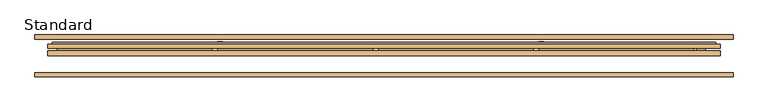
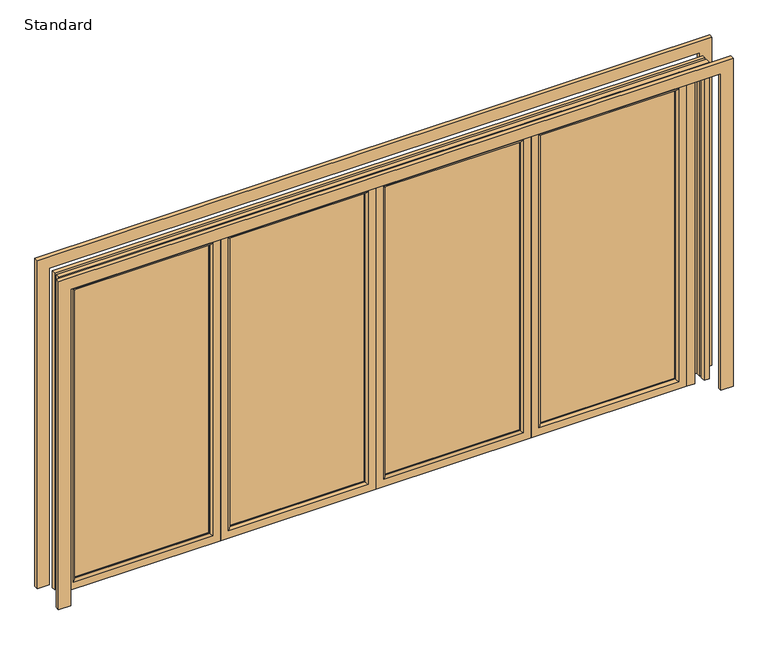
"""IFC4 building model written with IfcOpenShell, lengths in millimetres: door geometry, SMARTS_Visofold1000 : Standard."""

from ifc_helpers import new_model, si_unit, point, frame, frame_2d, origin, origin_with_axes, place, context, project, spatial, polyline, circle_curve, ellipse_curve, trimmed, segment, composite_curve, outline, extrude, faceted_brep, source, transform, mapped, element, save
from ifc_brep_helpers import plane_surface, cylinder_surface, advanced_brep


def standard_444d65a5(model_context):
    return source(origin(), model_context, "Body", "SolidModel", [
        extrude(outline(composite_curve([segment(trimmed(circle_curve(frame_2d((1228.0996413, 935.0)), 16.0), [point((1228.0996413, 951.0))], [point((1228.0996413, 919.0))], False, "CARTESIAN"), True, "CONTINUOUS"), segment(polyline([(1228.0996413, 919.0), (1040.0996413, 919.0)]), True, "CONTINUOUS"), segment(trimmed(circle_curve(frame_2d((1040.0996413, 935.0)), 16.0), [point((1040.0996413, 919.0))], [point((1040.0996413, 951.0))], False, "CARTESIAN"), True, "CONTINUOUS"), segment(polyline([(1040.0996413, 951.0), (1228.0996413, 951.0)]), True, "CONTINUOUS")], self_intersect=False)), frame((0.0, 75.0, 0.0), z_axis=(0.0, 1.0, 0.0), x_axis=(0.0, 0.0, 1.0)), (0.0, 0.0, 1.0), 10.0),
        extrude(outline(polyline([(45.0, 950.0), (45.0, 1815.0), (1955.0, 1815.0), (1955.0, 950.0), (45.0, 950.0)]), holes=[polyline([(1939.5, 965.5), (1939.5, 1799.5), (60.5, 1799.5), (60.5, 965.5), (1939.5, 965.5)])]), frame((0.0, 17.4, 0.0), z_axis=(0.0, 1.0, 0.0), x_axis=(0.0, 0.0, 1.0)), (0.0, 0.0, 1.0), 35.0),
        faceted_brep([(905.0, 74.4, 0.0), (905.0, 52.4, 0.0), (905.0, 52.4, 2000.0), (905.0, 74.4, 2000.0), (965.5, 52.4, 60.5), (965.5, 74.4, 60.5), (965.5, 74.4, 1939.5), (965.5, 52.4, 1939.5), (1860.0, 52.4, 2000.0), (1860.0, 74.4, 2000.0), (1799.5, 74.4, 1939.5), (1799.5, 52.4, 1939.5), (1860.0, 52.4, 0.0), (1860.0, 74.4, 0.0), (1799.5, 74.4, 60.5), (1799.5, 52.4, 60.5), (922.8691481, 34.8, 17.8691481), (1842.1308519, 34.8, 17.8691481), (1842.1308519, 34.8, 1982.1308519), (922.8691481, 34.8, 1982.1308519), (950.0, 34.8, 1955.0), (1815.0, 34.8, 1955.0), (1815.0, 34.8, 45.0), (950.0, 34.8, 45.0), (922.8691481, 52.4, 17.8691481), (922.8691481, 52.4, 1982.1308519), (950.0, 52.4, 45.0), (950.0, 52.4, 1955.0), (1842.1308519, 52.4, 1982.1308519), (1815.0, 52.4, 1955.0), (1842.1308519, 52.4, 17.8691481), (1815.0, 52.4, 45.0)], [[[0, 1, 2, 3]], [[4, 5, 6, 7]], [[3, 2, 8, 9]], [[7, 6, 10, 11]], [[9, 8, 12, 13]], [[11, 10, 14, 15]], [[13, 12, 1, 0]], [[3, 9, 13, 0], [5, 14, 10, 6]], [[15, 14, 5, 4]], [[16, 17, 18, 19], [20, 21, 22, 23]], [[24, 16, 19, 25]], [[23, 26, 27, 20]], [[25, 19, 18, 28]], [[20, 27, 29, 21]], [[28, 18, 17, 30]], [[21, 29, 31, 22]], [[30, 17, 16, 24]], [[1, 12, 8, 2], [25, 28, 30, 24]], [[26, 31, 29, 27], [7, 11, 15, 4]], [[22, 31, 26, 23]]]),
        advanced_brep(
        [(965.5, 13.3, 60.5), (965.5, 17.4, 60.5), (965.5, 17.4, 1939.5), (965.5, 13.3, 1939.5), (905.0, 17.4, 0.0), (905.0, 0.0, 0.0), (905.0, 0.0, 2000.0), (905.0, 17.4, 2000.0), (1799.5, 17.4, 1939.5), (1799.5, 13.3, 1939.5), (1860.0, 0.0, 2000.0), (1860.0, 17.4, 2000.0), (1799.5, 17.4, 60.5), (1799.5, 13.3, 60.5), (1860.0, 0.0, 0.0), (1860.0, 17.4, 0.0), (952.2, 0.0, 1952.8), (1812.8, 0.0, 1952.8), (1812.8, 0.0, 47.2), (952.2, 0.0, 47.2), (922.8691481, 34.8, 17.8691481), (922.8691481, 17.4, 17.8691481), (922.8691481, 17.4, 1982.1308519), (922.8691481, 34.8, 1982.1308519), (1842.1308519, 17.4, 1982.1308519), (1842.1308519, 34.8, 1982.1308519), (1842.1308519, 17.4, 17.8691481), (1842.1308519, 34.8, 17.8691481), (950.0, 17.4, 45.0), (950.0, 34.8, 45.0), (950.0, 34.8, 1955.0), (950.0, 17.4, 1955.0), (1815.0, 34.8, 1955.0), (1815.0, 17.4, 1955.0), (1815.0, 34.8, 45.0), (1815.0, 17.4, 45.0)],
        [
            (0, 1),
            (1, 2),
            (2, 3),
            (3, 0),
            (4, 5),
            (5, 6),
            (6, 7),
            (7, 4),
            (2, 8),
            (8, 9),
            (9, 3),
            (6, 10),
            (10, 11),
            (11, 7),
            (8, 12),
            (12, 13),
            (13, 9),
            (10, 14),
            (14, 15),
            (15, 11),
            (12, 1),
            (0, 13),
            (5, 14),
            (16, 17),
            (17, 18),
            (18, 19),
            (19, 16),
            (4, 15),
            (19, 0, ellipse_curve(frame((952.2, 13.3, 47.2), z_axis=(-0.7071067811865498, 0.0, 0.7071067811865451), x_axis=(-0.707106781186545, 0.0, -0.70710678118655)), 18.8090404, 13.3)),
            (3, 16, ellipse_curve(frame((952.2, 13.3, 1952.8), z_axis=(-0.7071067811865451, 0.0, -0.7071067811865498), x_axis=(0.7071067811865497, 0.0, -0.7071067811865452)), 18.8090404, 13.3)),
            (9, 17, ellipse_curve(frame((1812.8, 13.3, 1952.8), z_axis=(-0.7071067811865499, 0.0, 0.7071067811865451), x_axis=(-0.7071067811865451, 0.0, -0.7071067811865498)), 18.8090404, 13.3)),
            (13, 18, ellipse_curve(frame((1812.8, 13.3, 47.2), z_axis=(0.7071067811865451, 0.0, 0.7071067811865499), x_axis=(-0.7071067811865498, 0.0, 0.7071067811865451)), 18.8090404, 13.3)),
            (20, 21),
            (21, 22),
            (22, 23),
            (23, 20),
            (22, 24),
            (24, 25),
            (25, 23),
            (24, 26),
            (26, 27),
            (27, 25),
            (21, 26),
            (20, 27),
            (28, 29),
            (29, 30),
            (30, 31),
            (31, 28),
            (30, 32),
            (32, 33),
            (33, 31),
            (32, 34),
            (34, 35),
            (35, 33),
            (34, 29),
            (28, 35),
        ],
        [
            plane_surface(frame((965.5, 17.4, 60.5), z_axis=(1.0, 0.0, 0.0), x_axis=(0.0, 0.0, 1.0))),
            plane_surface(frame((905.0, 0.0, 0.0), z_axis=(-1.0, 0.0, 0.0), x_axis=(0.0, 0.0, 1.0))),
            plane_surface(frame((965.5, 17.4, 1939.5), z_axis=(0.0, 0.0, -1.0), x_axis=(1.0, 0.0, 0.0))),
            plane_surface(frame((905.0, 0.0, 2000.0), z_axis=(0.0, 0.0, 1.0), x_axis=(1.0, 0.0, 0.0))),
            plane_surface(frame((1799.5, 17.4, 1939.5), z_axis=(-1.0, 0.0, 0.0), x_axis=(0.0, 0.0, -1.0))),
            plane_surface(frame((1860.0, 0.0, 2000.0), z_axis=(1.0, 0.0, 0.0), x_axis=(0.0, 0.0, -1.0))),
            plane_surface(frame((1799.5, 17.4, 60.5), z_axis=(0.0, 0.0, 1.0), x_axis=(-1.0, 0.0, 0.0))),
            plane_surface(frame((1812.8, 0.0, 47.2), z_axis=(0.0, -1.0, 0.0), x_axis=(-1.0, 0.0, 0.0))),
            plane_surface(frame((1860.0, 0.0, 0.0), z_axis=(0.0, 0.0, -1.0), x_axis=(-1.0, 0.0, 0.0))),
            cylinder_surface(frame((952.2, 13.3, 0.0), z_axis=(0.0, 0.0, -1.0), x_axis=(0.0, 1.0, 0.0)), 13.3),
            cylinder_surface(frame((905.0, 13.3, 1952.8), z_axis=(-1.0, 0.0, 0.0), x_axis=(0.0, 1.0, 0.0)), 13.3),
            cylinder_surface(frame((1812.8, 13.3, 2000.0), z_axis=(0.0, 0.0, 1.0), x_axis=(0.0, 1.0, 0.0)), 13.3),
            cylinder_surface(frame((1860.0, 13.3, 47.2), z_axis=(1.0, 0.0, 0.0), x_axis=(0.0, 1.0, 0.0)), 13.3),
            plane_surface(frame((922.8691481, 17.4, 17.8691481), z_axis=(-1.0, 0.0, 0.0), x_axis=(0.0, 0.0, 1.0))),
            plane_surface(frame((922.8691481, 17.4, 1982.1308519), z_axis=(0.0, 0.0, 1.0), x_axis=(1.0, 0.0, 0.0))),
            plane_surface(frame((1842.1308519, 17.4, 1982.1308519), z_axis=(1.0, 0.0, 0.0), x_axis=(0.0, 0.0, -1.0))),
            plane_surface(frame((1860.0, 17.4, 0.0), z_axis=(0.0, 1.0, 0.0), x_axis=(-1.0, 0.0, 0.0))),
            plane_surface(frame((1842.1308519, 17.4, 17.8691481), z_axis=(0.0, 0.0, -1.0), x_axis=(-1.0, 0.0, 0.0))),
            plane_surface(frame((950.0, 34.8, 45.0), z_axis=(1.0, 0.0, 0.0), x_axis=(0.0, 0.0, 1.0))),
            plane_surface(frame((950.0, 34.8, 1955.0), z_axis=(0.0, 0.0, -1.0), x_axis=(1.0, 0.0, 0.0))),
            plane_surface(frame((1815.0, 34.8, 1955.0), z_axis=(-1.0, 0.0, 0.0), x_axis=(0.0, 0.0, -1.0))),
            plane_surface(frame((1815.0, 34.8, 45.0), z_axis=(0.0, 0.0, 1.0), x_axis=(-1.0, 0.0, 0.0))),
            plane_surface(frame((1815.0, 17.4, 45.0), z_axis=(0.0, 1.0, 0.0), x_axis=(-1.0, 0.0, 0.0))),
            plane_surface(frame((1842.1308519, 34.8, 17.8691481), z_axis=(0.0, 1.0, 0.0), x_axis=(-1.0, 0.0, 0.0))),
        ],
        [
            (0, [[1, 2, 3, 4]]),
            (1, [[5, 6, 7, 8]]),
            (2, [[-3, 9, 10, 11]]),
            (3, [[-7, 12, 13, 14]]),
            (4, [[-10, 15, 16, 17]]),
            (5, [[-13, 18, 19, 20]]),
            (6, [[-16, 21, -1, 22]]),
            (7, [[23, -18, -12, -6], [24, 25, 26, 27]]),
            (8, [[-19, -23, -5, 28]]),
            (9, [[29, -4, 30, -27]]),
            (10, [[-30, -11, 31, -24]]),
            (11, [[-31, -17, 32, -25]]),
            (12, [[-32, -22, -29, -26]]),
            (13, [[33, 34, 35, 36]]),
            (14, [[-35, 37, 38, 39]]),
            (15, [[-38, 40, 41, 42]]),
            (16, [[-14, -20, -28, -8], [43, -40, -37, -34]]),
            (17, [[-41, -43, -33, 44]]),
            (18, [[45, 46, 47, 48]]),
            (19, [[-47, 49, 50, 51]]),
            (20, [[-50, 52, 53, 54]]),
            (21, [[-53, 55, -45, 56]]),
            (22, [[-51, -54, -56, -48], [-21, -15, -9, -2]]),
            (23, [[-39, -42, -44, -36], [-55, -52, -49, -46]]),
        ],
    ),
        extrude(outline(polyline([(965.5, 50.1484783), (1799.5, 50.1484783), (1799.5, 21.4), (965.5, 21.4), (965.5, 50.1484783)])), frame((0.0, 0.0, 60.5), z_axis=(0.0, 0.0, 1.0), x_axis=(1.0, 0.0, 0.0)), (0.0, 0.0, 1.0), 1879.0),
        extrude(outline(composite_curve([segment(trimmed(circle_curve(frame_2d((1228.0996413, -975.0)), 16.0), [point((1228.0996413, -959.0))], [point((1228.0996413, -991.0))], False, "CARTESIAN"), True, "CONTINUOUS"), segment(polyline([(1228.0996413, -991.0), (1040.0996413, -991.0)]), True, "CONTINUOUS"), segment(trimmed(circle_curve(frame_2d((1040.0996413, -975.0)), 16.0), [point((1040.0996413, -991.0))], [point((1040.0996413, -959.0))], False, "CARTESIAN"), True, "CONTINUOUS"), segment(polyline([(1040.0996413, -959.0), (1228.0996413, -959.0)]), True, "CONTINUOUS")], self_intersect=False)), frame((0.0, 75.0, 0.0), z_axis=(0.0, 1.0, 0.0), x_axis=(0.0, 0.0, 1.0)), (0.0, 0.0, 1.0), 10.0),
        extrude(outline(polyline([(45.0, -960.0), (45.0, -95.0), (1955.0, -95.0), (1955.0, -960.0), (45.0, -960.0)]), holes=[polyline([(1939.5, -944.5), (1939.5, -110.5), (60.5, -110.5), (60.5, -944.5), (1939.5, -944.5)])]), frame((0.0, 17.4, 0.0), z_axis=(0.0, 1.0, 0.0), x_axis=(0.0, 0.0, 1.0)), (0.0, 0.0, 1.0), 35.0),
        faceted_brep([(-1005.0, 74.4, 0.0), (-1005.0, 52.4, 0.0), (-1005.0, 52.4, 2000.0), (-1005.0, 74.4, 2000.0), (-944.5, 52.4, 60.5), (-944.5, 74.4, 60.5), (-944.5, 74.4, 1939.5), (-944.5, 52.4, 1939.5), (-50.0, 52.4, 2000.0), (-50.0, 74.4, 2000.0), (-110.5, 74.4, 1939.5), (-110.5, 52.4, 1939.5), (-50.0, 52.4, 0.0), (-50.0, 74.4, 0.0), (-110.5, 74.4, 60.5), (-110.5, 52.4, 60.5), (-987.1308519, 34.8, 17.8691481), (-67.8691481, 34.8, 17.8691481), (-67.8691481, 34.8, 1982.1308519), (-987.1308519, 34.8, 1982.1308519), (-960.0, 34.8, 1955.0), (-95.0, 34.8, 1955.0), (-95.0, 34.8, 45.0), (-960.0, 34.8, 45.0), (-987.1308519, 52.4, 17.8691481), (-987.1308519, 52.4, 1982.1308519), (-960.0, 52.4, 45.0), (-960.0, 52.4, 1955.0), (-67.8691481, 52.4, 1982.1308519), (-95.0, 52.4, 1955.0), (-67.8691481, 52.4, 17.8691481), (-95.0, 52.4, 45.0)], [[[0, 1, 2, 3]], [[4, 5, 6, 7]], [[3, 2, 8, 9]], [[7, 6, 10, 11]], [[9, 8, 12, 13]], [[11, 10, 14, 15]], [[13, 12, 1, 0]], [[3, 9, 13, 0], [5, 14, 10, 6]], [[15, 14, 5, 4]], [[16, 17, 18, 19], [20, 21, 22, 23]], [[24, 16, 19, 25]], [[23, 26, 27, 20]], [[25, 19, 18, 28]], [[20, 27, 29, 21]], [[28, 18, 17, 30]], [[21, 29, 31, 22]], [[30, 17, 16, 24]], [[1, 12, 8, 2], [25, 28, 30, 24]], [[26, 31, 29, 27], [7, 11, 15, 4]], [[22, 31, 26, 23]]]),
        advanced_brep(
        [(-944.5, 13.3, 60.5), (-944.5, 17.4, 60.5), (-944.5, 17.4, 1939.5), (-944.5, 13.3, 1939.5), (-1005.0, 17.4, 0.0), (-1005.0, 0.0, 0.0), (-1005.0, 0.0, 2000.0), (-1005.0, 17.4, 2000.0), (-110.5, 17.4, 1939.5), (-110.5, 13.3, 1939.5), (-50.0, 0.0, 2000.0), (-50.0, 17.4, 2000.0), (-110.5, 17.4, 60.5), (-110.5, 13.3, 60.5), (-50.0, 0.0, 0.0), (-50.0, 17.4, 0.0), (-957.8, 0.0, 1952.8), (-97.2, 0.0, 1952.8), (-97.2, 0.0, 47.2), (-957.8, 0.0, 47.2), (-987.1308519, 34.8, 17.8691481), (-987.1308519, 17.4, 17.8691481), (-987.1308519, 17.4, 1982.1308519), (-987.1308519, 34.8, 1982.1308519), (-67.8691481, 17.4, 1982.1308519), (-67.8691481, 34.8, 1982.1308519), (-67.8691481, 17.4, 17.8691481), (-67.8691481, 34.8, 17.8691481), (-960.0, 17.4, 45.0), (-960.0, 34.8, 45.0), (-960.0, 34.8, 1955.0), (-960.0, 17.4, 1955.0), (-95.0, 34.8, 1955.0), (-95.0, 17.4, 1955.0), (-95.0, 34.8, 45.0), (-95.0, 17.4, 45.0)],
        [
            (0, 1),
            (1, 2),
            (2, 3),
            (3, 0),
            (4, 5),
            (5, 6),
            (6, 7),
            (7, 4),
            (2, 8),
            (8, 9),
            (9, 3),
            (6, 10),
            (10, 11),
            (11, 7),
            (8, 12),
            (12, 13),
            (13, 9),
            (10, 14),
            (14, 15),
            (15, 11),
            (12, 1),
            (0, 13),
            (5, 14),
            (16, 17),
            (17, 18),
            (18, 19),
            (19, 16),
            (4, 15),
            (19, 0, ellipse_curve(frame((-957.8, 13.3, 47.2), z_axis=(-0.7071067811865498, 0.0, 0.7071067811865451), x_axis=(-0.707106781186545, 0.0, -0.70710678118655)), 18.8090404, 13.3)),
            (3, 16, ellipse_curve(frame((-957.8, 13.3, 1952.8), z_axis=(-0.7071067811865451, 0.0, -0.7071067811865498), x_axis=(0.7071067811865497, 0.0, -0.7071067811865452)), 18.8090404, 13.3)),
            (9, 17, ellipse_curve(frame((-97.2, 13.3, 1952.8), z_axis=(-0.7071067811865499, 0.0, 0.7071067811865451), x_axis=(-0.7071067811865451, 0.0, -0.7071067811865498)), 18.8090404, 13.3)),
            (13, 18, ellipse_curve(frame((-97.2, 13.3, 47.2), z_axis=(0.7071067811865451, 0.0, 0.7071067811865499), x_axis=(-0.7071067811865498, 0.0, 0.7071067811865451)), 18.8090404, 13.3)),
            (20, 21),
            (21, 22),
            (22, 23),
            (23, 20),
            (22, 24),
            (24, 25),
            (25, 23),
            (24, 26),
            (26, 27),
            (27, 25),
            (21, 26),
            (20, 27),
            (28, 29),
            (29, 30),
            (30, 31),
            (31, 28),
            (30, 32),
            (32, 33),
            (33, 31),
            (32, 34),
            (34, 35),
            (35, 33),
            (34, 29),
            (28, 35),
        ],
        [
            plane_surface(frame((-944.5, 17.4, 60.5), z_axis=(1.0, 0.0, 0.0), x_axis=(0.0, 0.0, 1.0))),
            plane_surface(frame((-1005.0, 0.0, 0.0), z_axis=(-1.0, 0.0, 0.0), x_axis=(0.0, 0.0, 1.0))),
            plane_surface(frame((-944.5, 17.4, 1939.5), z_axis=(0.0, 0.0, -1.0), x_axis=(1.0, 0.0, 0.0))),
            plane_surface(frame((-1005.0, 0.0, 2000.0), z_axis=(0.0, 0.0, 1.0), x_axis=(1.0, 0.0, 0.0))),
            plane_surface(frame((-110.5, 17.4, 1939.5), z_axis=(-1.0, 0.0, 0.0), x_axis=(0.0, 0.0, -1.0))),
            plane_surface(frame((-50.0, 0.0, 2000.0), z_axis=(1.0, 0.0, 0.0), x_axis=(0.0, 0.0, -1.0))),
            plane_surface(frame((-110.5, 17.4, 60.5), z_axis=(0.0, 0.0, 1.0), x_axis=(-1.0, 0.0, 0.0))),
            plane_surface(frame((-97.2, 0.0, 47.2), z_axis=(0.0, -1.0, 0.0), x_axis=(-1.0, 0.0, 0.0))),
            plane_surface(frame((-50.0, 0.0, 0.0), z_axis=(0.0, 0.0, -1.0), x_axis=(-1.0, 0.0, 0.0))),
            cylinder_surface(frame((-957.8, 13.3, 0.0), z_axis=(0.0, 0.0, -1.0), x_axis=(0.0, 1.0, 0.0)), 13.3),
            cylinder_surface(frame((-1005.0, 13.3, 1952.8), z_axis=(-1.0, 0.0, 0.0), x_axis=(0.0, 1.0, 0.0)), 13.3),
            cylinder_surface(frame((-97.2, 13.3, 2000.0), z_axis=(0.0, 0.0, 1.0), x_axis=(0.0, 1.0, 0.0)), 13.3),
            cylinder_surface(frame((-50.0, 13.3, 47.2), z_axis=(1.0, 0.0, 0.0), x_axis=(0.0, 1.0, 0.0)), 13.3),
            plane_surface(frame((-987.1308519, 17.4, 17.8691481), z_axis=(-1.0, 0.0, 0.0), x_axis=(0.0, 0.0, 1.0))),
            plane_surface(frame((-987.1308519, 17.4, 1982.1308519), z_axis=(0.0, 0.0, 1.0), x_axis=(1.0, 0.0, 0.0))),
            plane_surface(frame((-67.8691481, 17.4, 1982.1308519), z_axis=(1.0, 0.0, 0.0), x_axis=(0.0, 0.0, -1.0))),
            plane_surface(frame((-50.0, 17.4, 0.0), z_axis=(0.0, 1.0, 0.0), x_axis=(-1.0, 0.0, 0.0))),
            plane_surface(frame((-67.8691481, 17.4, 17.8691481), z_axis=(0.0, 0.0, -1.0), x_axis=(-1.0, 0.0, 0.0))),
            plane_surface(frame((-960.0, 34.8, 45.0), z_axis=(1.0, 0.0, 0.0), x_axis=(0.0, 0.0, 1.0))),
            plane_surface(frame((-960.0, 34.8, 1955.0), z_axis=(0.0, 0.0, -1.0), x_axis=(1.0, 0.0, 0.0))),
            plane_surface(frame((-95.0, 34.8, 1955.0), z_axis=(-1.0, 0.0, 0.0), x_axis=(0.0, 0.0, -1.0))),
            plane_surface(frame((-95.0, 34.8, 45.0), z_axis=(0.0, 0.0, 1.0), x_axis=(-1.0, 0.0, 0.0))),
            plane_surface(frame((-95.0, 17.4, 45.0), z_axis=(0.0, 1.0, 0.0), x_axis=(-1.0, 0.0, 0.0))),
            plane_surface(frame((-67.8691481, 34.8, 17.8691481), z_axis=(0.0, 1.0, 0.0), x_axis=(-1.0, 0.0, 0.0))),
        ],
        [
            (0, [[1, 2, 3, 4]]),
            (1, [[5, 6, 7, 8]]),
            (2, [[-3, 9, 10, 11]]),
            (3, [[-7, 12, 13, 14]]),
            (4, [[-10, 15, 16, 17]]),
            (5, [[-13, 18, 19, 20]]),
            (6, [[-16, 21, -1, 22]]),
            (7, [[23, -18, -12, -6], [24, 25, 26, 27]]),
            (8, [[-19, -23, -5, 28]]),
            (9, [[29, -4, 30, -27]]),
            (10, [[-30, -11, 31, -24]]),
            (11, [[-31, -17, 32, -25]]),
            (12, [[-32, -22, -29, -26]]),
            (13, [[33, 34, 35, 36]]),
            (14, [[-35, 37, 38, 39]]),
            (15, [[-38, 40, 41, 42]]),
            (16, [[-14, -20, -28, -8], [43, -40, -37, -34]]),
            (17, [[-41, -43, -33, 44]]),
            (18, [[45, 46, 47, 48]]),
            (19, [[-47, 49, 50, 51]]),
            (20, [[-50, 52, 53, 54]]),
            (21, [[-53, 55, -45, 56]]),
            (22, [[-51, -54, -56, -48], [-21, -15, -9, -2]]),
            (23, [[-39, -42, -44, -36], [-55, -52, -49, -46]]),
        ],
    ),
        extrude(outline(polyline([(-944.5, 50.1484783), (-110.5, 50.1484783), (-110.5, 21.4), (-944.5, 21.4), (-944.5, 50.1484783)])), frame((0.0, 0.0, 60.5), z_axis=(0.0, 0.0, 1.0), x_axis=(1.0, 0.0, 0.0)), (0.0, 0.0, 1.0), 1879.0),
        extrude(outline(polyline([(45.0, 860.0), (1955.0, 860.0), (1955.0, -5.0), (45.0, -5.0), (45.0, 860.0)]), holes=[polyline([(1939.5, 844.5), (60.5, 844.5), (60.5, 10.5), (1939.5, 10.5), (1939.5, 844.5)])]), frame((0.0, 17.4, 0.0), z_axis=(0.0, 1.0, 0.0), x_axis=(0.0, 0.0, 1.0)), (0.0, 0.0, 1.0), 35.0),
        faceted_brep([(905.0, 74.4, 0.0), (905.0, 74.4, 2000.0), (905.0, 52.4, 2000.0), (905.0, 52.4, 0.0), (844.5, 52.4, 60.5), (844.5, 52.4, 1939.5), (844.5, 74.4, 1939.5), (844.5, 74.4, 60.5), (-50.0, 74.4, 2000.0), (-50.0, 52.4, 2000.0), (10.5, 52.4, 1939.5), (10.5, 74.4, 1939.5), (-50.0, 74.4, 0.0), (-50.0, 52.4, 0.0), (10.5, 52.4, 60.5), (10.5, 74.4, 60.5), (887.1308519, 34.8, 17.8691481), (887.1308519, 34.8, 1982.1308519), (-32.1308519, 34.8, 1982.1308519), (-32.1308519, 34.8, 17.8691481), (860.0, 34.8, 1955.0), (860.0, 34.8, 45.0), (-5.0, 34.8, 45.0), (-5.0, 34.8, 1955.0), (887.1308519, 52.4, 17.8691481), (887.1308519, 52.4, 1982.1308519), (860.0, 52.4, 1955.0), (860.0, 52.4, 45.0), (-32.1308519, 52.4, 1982.1308519), (-5.0, 52.4, 1955.0), (-32.1308519, 52.4, 17.8691481), (-5.0, 52.4, 45.0)], [[[0, 1, 2, 3]], [[4, 5, 6, 7]], [[1, 8, 9, 2]], [[5, 10, 11, 6]], [[8, 12, 13, 9]], [[10, 14, 15, 11]], [[12, 0, 3, 13]], [[1, 0, 12, 8], [7, 6, 11, 15]], [[14, 4, 7, 15]], [[16, 17, 18, 19], [20, 21, 22, 23]], [[24, 25, 17, 16]], [[21, 20, 26, 27]], [[25, 28, 18, 17]], [[20, 23, 29, 26]], [[28, 30, 19, 18]], [[23, 22, 31, 29]], [[30, 24, 16, 19]], [[3, 2, 9, 13], [25, 24, 30, 28]], [[27, 26, 29, 31], [5, 4, 14, 10]], [[22, 21, 27, 31]]]),
        advanced_brep(
        [(844.5, 13.3, 60.5), (844.5, 13.3, 1939.5), (844.5, 17.4, 1939.5), (844.5, 17.4, 60.5), (905.0, 17.4, 0.0), (905.0, 17.4, 2000.0), (905.0, 0.0, 2000.0), (905.0, 0.0, 0.0), (10.5, 13.3, 1939.5), (10.5, 17.4, 1939.5), (-50.0, 17.4, 2000.0), (-50.0, 0.0, 2000.0), (10.5, 13.3, 60.5), (10.5, 17.4, 60.5), (-50.0, 17.4, 0.0), (-50.0, 0.0, 0.0), (857.8, 0.0, 1952.8), (857.8, 0.0, 47.2), (-2.8, 0.0, 47.2), (-2.8, 0.0, 1952.8), (887.1308519, 34.8, 17.8691481), (887.1308519, 34.8, 1982.1308519), (887.1308519, 17.4, 1982.1308519), (887.1308519, 17.4, 17.8691481), (-32.1308519, 34.8, 1982.1308519), (-32.1308519, 17.4, 1982.1308519), (-32.1308519, 34.8, 17.8691481), (-32.1308519, 17.4, 17.8691481), (860.0, 17.4, 45.0), (860.0, 17.4, 1955.0), (860.0, 34.8, 1955.0), (860.0, 34.8, 45.0), (-5.0, 17.4, 1955.0), (-5.0, 34.8, 1955.0), (-5.0, 17.4, 45.0), (-5.0, 34.8, 45.0)],
        [
            (0, 1),
            (1, 2),
            (2, 3),
            (3, 0),
            (4, 5),
            (5, 6),
            (6, 7),
            (7, 4),
            (1, 8),
            (8, 9),
            (9, 2),
            (5, 10),
            (10, 11),
            (11, 6),
            (8, 12),
            (12, 13),
            (13, 9),
            (10, 14),
            (14, 15),
            (15, 11),
            (12, 0),
            (3, 13),
            (15, 7),
            (16, 17),
            (17, 18),
            (18, 19),
            (19, 16),
            (14, 4),
            (16, 1, ellipse_curve(frame((857.8, 13.3, 1952.8), z_axis=(0.7071067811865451, 0.0, -0.7071067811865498), x_axis=(-0.7071067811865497, 0.0, -0.7071067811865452)), 18.8090404, 13.3)),
            (0, 17, ellipse_curve(frame((857.8, 13.3, 47.2), z_axis=(0.7071067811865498, 0.0, 0.7071067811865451), x_axis=(0.707106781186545, 0.0, -0.70710678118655)), 18.8090404, 13.3)),
            (19, 8, ellipse_curve(frame((-2.8, 13.3, 1952.8), z_axis=(0.7071067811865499, 0.0, 0.7071067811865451), x_axis=(0.7071067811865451, 0.0, -0.7071067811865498)), 18.8090404, 13.3)),
            (18, 12, ellipse_curve(frame((-2.8, 13.3, 47.2), z_axis=(-0.7071067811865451, 0.0, 0.7071067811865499), x_axis=(0.7071067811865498, 0.0, 0.7071067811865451)), 18.8090404, 13.3)),
            (20, 21),
            (21, 22),
            (22, 23),
            (23, 20),
            (21, 24),
            (24, 25),
            (25, 22),
            (24, 26),
            (26, 27),
            (27, 25),
            (27, 23),
            (26, 20),
            (28, 29),
            (29, 30),
            (30, 31),
            (31, 28),
            (29, 32),
            (32, 33),
            (33, 30),
            (32, 34),
            (34, 35),
            (35, 33),
            (34, 28),
            (31, 35),
        ],
        [
            plane_surface(frame((844.5, 17.4, 60.5), z_axis=(-1.0, 0.0, 0.0), x_axis=(0.0, 0.0, 1.0))),
            plane_surface(frame((905.0, 0.0, 0.0), z_axis=(1.0, 0.0, 0.0), x_axis=(0.0, 0.0, 1.0))),
            plane_surface(frame((844.5, 17.4, 1939.5), z_axis=(0.0, 0.0, -1.0), x_axis=(-1.0, 0.0, 0.0))),
            plane_surface(frame((905.0, 0.0, 2000.0), z_axis=(0.0, 0.0, 1.0), x_axis=(-1.0, 0.0, 0.0))),
            plane_surface(frame((10.5, 17.4, 1939.5), z_axis=(1.0, 0.0, 0.0), x_axis=(0.0, 0.0, -1.0))),
            plane_surface(frame((-50.0, 0.0, 2000.0), z_axis=(-1.0, 0.0, 0.0), x_axis=(0.0, 0.0, -1.0))),
            plane_surface(frame((10.5, 17.4, 60.5), z_axis=(0.0, 0.0, 1.0), x_axis=(1.0, 0.0, 0.0))),
            plane_surface(frame((-2.8, 0.0, 47.2), z_axis=(0.0, -1.0, 0.0), x_axis=(1.0, 0.0, 0.0))),
            plane_surface(frame((-50.0, 0.0, 0.0), z_axis=(0.0, 0.0, -1.0), x_axis=(1.0, 0.0, 0.0))),
            cylinder_surface(frame((857.8, 13.3, 0.0), z_axis=(0.0, 0.0, -1.0), x_axis=(0.0, 1.0, 0.0)), 13.3),
            cylinder_surface(frame((905.0, 13.3, 1952.8), z_axis=(1.0, 0.0, 0.0), x_axis=(0.0, 1.0, 0.0)), 13.3),
            cylinder_surface(frame((-2.8, 13.3, 2000.0), z_axis=(0.0, 0.0, 1.0), x_axis=(0.0, 1.0, 0.0)), 13.3),
            cylinder_surface(frame((-50.0, 13.3, 47.2), z_axis=(-1.0, 0.0, 0.0), x_axis=(0.0, 1.0, 0.0)), 13.3),
            plane_surface(frame((887.1308519, 17.4, 17.8691481), z_axis=(1.0, 0.0, 0.0), x_axis=(0.0, 0.0, 1.0))),
            plane_surface(frame((887.1308519, 17.4, 1982.1308519), z_axis=(0.0, 0.0, 1.0), x_axis=(-1.0, 0.0, 0.0))),
            plane_surface(frame((-32.1308519, 17.4, 1982.1308519), z_axis=(-1.0, 0.0, 0.0), x_axis=(0.0, 0.0, -1.0))),
            plane_surface(frame((-50.0, 17.4, 0.0), z_axis=(0.0, 1.0, 0.0), x_axis=(1.0, 0.0, 0.0))),
            plane_surface(frame((-32.1308519, 17.4, 17.8691481), z_axis=(0.0, 0.0, -1.0), x_axis=(1.0, 0.0, 0.0))),
            plane_surface(frame((860.0, 34.8, 45.0), z_axis=(-1.0, 0.0, 0.0), x_axis=(0.0, 0.0, 1.0))),
            plane_surface(frame((860.0, 34.8, 1955.0), z_axis=(0.0, 0.0, -1.0), x_axis=(-1.0, 0.0, 0.0))),
            plane_surface(frame((-5.0, 34.8, 1955.0), z_axis=(1.0, 0.0, 0.0), x_axis=(0.0, 0.0, -1.0))),
            plane_surface(frame((-5.0, 34.8, 45.0), z_axis=(0.0, 0.0, 1.0), x_axis=(1.0, 0.0, 0.0))),
            plane_surface(frame((-5.0, 17.4, 45.0), z_axis=(0.0, 1.0, 0.0), x_axis=(1.0, 0.0, 0.0))),
            plane_surface(frame((-32.1308519, 34.8, 17.8691481), z_axis=(0.0, 1.0, 0.0), x_axis=(1.0, 0.0, 0.0))),
        ],
        [
            (0, [[1, 2, 3, 4]]),
            (1, [[5, 6, 7, 8]]),
            (2, [[9, 10, 11, -2]]),
            (3, [[12, 13, 14, -6]]),
            (4, [[15, 16, 17, -10]]),
            (5, [[18, 19, 20, -13]]),
            (6, [[21, -4, 22, -16]]),
            (7, [[-7, -14, -20, 23], [24, 25, 26, 27]]),
            (8, [[28, -8, -23, -19]]),
            (9, [[-24, 29, -1, 30]]),
            (10, [[-27, 31, -9, -29]]),
            (11, [[-26, 32, -15, -31]]),
            (12, [[-25, -30, -21, -32]]),
            (13, [[33, 34, 35, 36]]),
            (14, [[37, 38, 39, -34]]),
            (15, [[40, 41, 42, -38]]),
            (16, [[-5, -28, -18, -12], [-35, -39, -42, 43]]),
            (17, [[44, -36, -43, -41]]),
            (18, [[45, 46, 47, 48]]),
            (19, [[49, 50, 51, -46]]),
            (20, [[52, 53, 54, -50]]),
            (21, [[55, -48, 56, -53]]),
            (22, [[-45, -55, -52, -49], [-3, -11, -17, -22]]),
            (23, [[-33, -44, -40, -37], [-47, -51, -54, -56]]),
        ],
    ),
        extrude(outline(polyline([(844.5, 50.1484783), (844.5, 21.4), (10.5, 21.4), (10.5, 50.1484783), (844.5, 50.1484783)])), frame((0.0, 0.0, 60.5), z_axis=(0.0, 0.0, 1.0), x_axis=(1.0, 0.0, 0.0)), (0.0, 0.0, 1.0), 1879.0),
        extrude(outline(polyline([(45.0, -1050.0), (1955.0, -1050.0), (1955.0, -1915.0), (45.0, -1915.0), (45.0, -1050.0)]), holes=[polyline([(1939.5, -1065.5), (60.5, -1065.5), (60.5, -1899.5), (1939.5, -1899.5), (1939.5, -1065.5)])]), frame((0.0, 17.4, 0.0), z_axis=(0.0, 1.0, 0.0), x_axis=(0.0, 0.0, 1.0)), (0.0, 0.0, 1.0), 35.0),
        faceted_brep([(-1005.0, 74.4, 0.0), (-1005.0, 74.4, 2000.0), (-1005.0, 52.4, 2000.0), (-1005.0, 52.4, 0.0), (-1065.5, 52.4, 60.5), (-1065.5, 52.4, 1939.5), (-1065.5, 74.4, 1939.5), (-1065.5, 74.4, 60.5), (-1960.0, 74.4, 0.0), (-1960.0, 52.4, 0.0), (-1960.0, 74.4, 2000.0), (-1960.0, 52.4, 2000.0), (-1899.5, 52.4, 1939.5), (-1899.5, 74.4, 1939.5), (-1899.5, 52.4, 60.5), (-1899.5, 74.4, 60.5), (-1022.8691481, 34.8, 17.8691481), (-1022.8691481, 34.8, 1982.1308519), (-1942.1308519, 34.8, 1982.1308519), (-1942.1308519, 34.8, 17.8691481), (-1050.0, 34.8, 1955.0), (-1050.0, 34.8, 45.0), (-1915.0, 34.8, 45.0), (-1915.0, 34.8, 1955.0), (-1022.8691481, 52.4, 17.8691481), (-1022.8691481, 52.4, 1982.1308519), (-1050.0, 52.4, 1955.0), (-1050.0, 52.4, 45.0), (-1942.1308519, 52.4, 1982.1308519), (-1915.0, 52.4, 1955.0), (-1942.1308519, 52.4, 17.8691481), (-1915.0, 52.4, 45.0)], [[[0, 1, 2, 3]], [[4, 5, 6, 7]], [[8, 0, 3, 9]], [[1, 10, 11, 2]], [[5, 12, 13, 6]], [[10, 8, 9, 11]], [[12, 14, 15, 13]], [[1, 0, 8, 10], [7, 6, 13, 15]], [[14, 4, 7, 15]], [[16, 17, 18, 19], [20, 21, 22, 23]], [[24, 25, 17, 16]], [[21, 20, 26, 27]], [[25, 28, 18, 17]], [[20, 23, 29, 26]], [[28, 30, 19, 18]], [[23, 22, 31, 29]], [[30, 24, 16, 19]], [[3, 2, 11, 9], [25, 24, 30, 28]], [[27, 26, 29, 31], [5, 4, 14, 12]], [[22, 21, 27, 31]]]),
        advanced_brep(
        [(-1065.5, 13.3, 60.5), (-1065.5, 13.3, 1939.5), (-1065.5, 17.4, 1939.5), (-1065.5, 17.4, 60.5), (-1005.0, 17.4, 0.0), (-1005.0, 17.4, 2000.0), (-1005.0, 0.0, 2000.0), (-1005.0, 0.0, 0.0), (-1899.5, 13.3, 1939.5), (-1899.5, 17.4, 1939.5), (-1960.0, 17.4, 2000.0), (-1960.0, 0.0, 2000.0), (-1899.5, 13.3, 60.5), (-1899.5, 17.4, 60.5), (-1960.0, 17.4, 0.0), (-1960.0, 0.0, 0.0), (-1052.2, 0.0, 1952.8), (-1052.2, 0.0, 47.2), (-1912.8, 0.0, 47.2), (-1912.8, 0.0, 1952.8), (-1022.8691481, 34.8, 17.8691481), (-1022.8691481, 34.8, 1982.1308519), (-1022.8691481, 17.4, 1982.1308519), (-1022.8691481, 17.4, 17.8691481), (-1942.1308519, 34.8, 1982.1308519), (-1942.1308519, 17.4, 1982.1308519), (-1942.1308519, 34.8, 17.8691481), (-1942.1308519, 17.4, 17.8691481), (-1050.0, 17.4, 45.0), (-1050.0, 17.4, 1955.0), (-1050.0, 34.8, 1955.0), (-1050.0, 34.8, 45.0), (-1915.0, 17.4, 1955.0), (-1915.0, 34.8, 1955.0), (-1915.0, 17.4, 45.0), (-1915.0, 34.8, 45.0)],
        [
            (0, 1),
            (1, 2),
            (2, 3),
            (3, 0),
            (4, 5),
            (5, 6),
            (6, 7),
            (7, 4),
            (1, 8),
            (8, 9),
            (9, 2),
            (5, 10),
            (10, 11),
            (11, 6),
            (8, 12),
            (12, 13),
            (13, 9),
            (10, 14),
            (14, 15),
            (15, 11),
            (12, 0),
            (3, 13),
            (15, 7),
            (16, 17),
            (17, 18),
            (18, 19),
            (19, 16),
            (14, 4),
            (16, 1, ellipse_curve(frame((-1052.2, 13.3, 1952.8), z_axis=(0.7071067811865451, 0.0, -0.7071067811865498), x_axis=(-0.7071067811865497, 0.0, -0.7071067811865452)), 18.8090404, 13.3)),
            (0, 17, ellipse_curve(frame((-1052.2, 13.3, 47.2), z_axis=(0.7071067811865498, 0.0, 0.7071067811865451), x_axis=(0.707106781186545, 0.0, -0.70710678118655)), 18.8090404, 13.3)),
            (19, 8, ellipse_curve(frame((-1912.8, 13.3, 1952.8), z_axis=(0.7071067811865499, 0.0, 0.7071067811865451), x_axis=(0.7071067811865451, 0.0, -0.7071067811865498)), 18.8090404, 13.3)),
            (18, 12, ellipse_curve(frame((-1912.8, 13.3, 47.2), z_axis=(-0.7071067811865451, 0.0, 0.7071067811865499), x_axis=(0.7071067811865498, 0.0, 0.7071067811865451)), 18.8090404, 13.3)),
            (20, 21),
            (21, 22),
            (22, 23),
            (23, 20),
            (21, 24),
            (24, 25),
            (25, 22),
            (24, 26),
            (26, 27),
            (27, 25),
            (27, 23),
            (26, 20),
            (28, 29),
            (29, 30),
            (30, 31),
            (31, 28),
            (29, 32),
            (32, 33),
            (33, 30),
            (32, 34),
            (34, 35),
            (35, 33),
            (34, 28),
            (31, 35),
        ],
        [
            plane_surface(frame((-1065.5, 17.4, 60.5), z_axis=(-1.0, 0.0, 0.0), x_axis=(0.0, 0.0, 1.0))),
            plane_surface(frame((-1005.0, 0.0, 0.0), z_axis=(1.0, 0.0, 0.0), x_axis=(0.0, 0.0, 1.0))),
            plane_surface(frame((-1065.5, 17.4, 1939.5), z_axis=(0.0, 0.0, -1.0), x_axis=(-1.0, 0.0, 0.0))),
            plane_surface(frame((-1005.0, 0.0, 2000.0), z_axis=(0.0, 0.0, 1.0), x_axis=(-1.0, 0.0, 0.0))),
            plane_surface(frame((-1899.5, 17.4, 1939.5), z_axis=(1.0, 0.0, 0.0), x_axis=(0.0, 0.0, -1.0))),
            plane_surface(frame((-1960.0, 0.0, 2000.0), z_axis=(-1.0, 0.0, 0.0), x_axis=(0.0, 0.0, -1.0))),
            plane_surface(frame((-1899.5, 17.4, 60.5), z_axis=(0.0, 0.0, 1.0), x_axis=(1.0, 0.0, 0.0))),
            plane_surface(frame((-1912.8, 0.0, 47.2), z_axis=(0.0, -1.0, 0.0), x_axis=(1.0, 0.0, 0.0))),
            plane_surface(frame((-1960.0, 0.0, 0.0), z_axis=(0.0, 0.0, -1.0), x_axis=(1.0, 0.0, 0.0))),
            cylinder_surface(frame((-1052.2, 13.3, 0.0), z_axis=(0.0, 0.0, -1.0), x_axis=(0.0, 1.0, 0.0)), 13.3),
            cylinder_surface(frame((-1005.0, 13.3, 1952.8), z_axis=(1.0, 0.0, 0.0), x_axis=(0.0, 1.0, 0.0)), 13.3),
            cylinder_surface(frame((-1912.8, 13.3, 2000.0), z_axis=(0.0, 0.0, 1.0), x_axis=(0.0, 1.0, 0.0)), 13.3),
            cylinder_surface(frame((-1960.0, 13.3, 47.2), z_axis=(-1.0, 0.0, 0.0), x_axis=(0.0, 1.0, 0.0)), 13.3),
            plane_surface(frame((-1022.8691481, 17.4, 17.8691481), z_axis=(1.0, 0.0, 0.0), x_axis=(0.0, 0.0, 1.0))),
            plane_surface(frame((-1022.8691481, 17.4, 1982.1308519), z_axis=(0.0, 0.0, 1.0), x_axis=(-1.0, 0.0, 0.0))),
            plane_surface(frame((-1942.1308519, 17.4, 1982.1308519), z_axis=(-1.0, 0.0, 0.0), x_axis=(0.0, 0.0, -1.0))),
            plane_surface(frame((-1960.0, 17.4, 0.0), z_axis=(0.0, 1.0, 0.0), x_axis=(1.0, 0.0, 0.0))),
            plane_surface(frame((-1942.1308519, 17.4, 17.8691481), z_axis=(0.0, 0.0, -1.0), x_axis=(1.0, 0.0, 0.0))),
            plane_surface(frame((-1050.0, 34.8, 45.0), z_axis=(-1.0, 0.0, 0.0), x_axis=(0.0, 0.0, 1.0))),
            plane_surface(frame((-1050.0, 34.8, 1955.0), z_axis=(0.0, 0.0, -1.0), x_axis=(-1.0, 0.0, 0.0))),
            plane_surface(frame((-1915.0, 34.8, 1955.0), z_axis=(1.0, 0.0, 0.0), x_axis=(0.0, 0.0, -1.0))),
            plane_surface(frame((-1915.0, 34.8, 45.0), z_axis=(0.0, 0.0, 1.0), x_axis=(1.0, 0.0, 0.0))),
            plane_surface(frame((-1915.0, 17.4, 45.0), z_axis=(0.0, 1.0, 0.0), x_axis=(1.0, 0.0, 0.0))),
            plane_surface(frame((-1942.1308519, 34.8, 17.8691481), z_axis=(0.0, 1.0, 0.0), x_axis=(1.0, 0.0, 0.0))),
        ],
        [
            (0, [[1, 2, 3, 4]]),
            (1, [[5, 6, 7, 8]]),
            (2, [[9, 10, 11, -2]]),
            (3, [[12, 13, 14, -6]]),
            (4, [[15, 16, 17, -10]]),
            (5, [[18, 19, 20, -13]]),
            (6, [[21, -4, 22, -16]]),
            (7, [[-7, -14, -20, 23], [24, 25, 26, 27]]),
            (8, [[28, -8, -23, -19]]),
            (9, [[-24, 29, -1, 30]]),
            (10, [[-27, 31, -9, -29]]),
            (11, [[-26, 32, -15, -31]]),
            (12, [[-25, -30, -21, -32]]),
            (13, [[33, 34, 35, 36]]),
            (14, [[37, 38, 39, -34]]),
            (15, [[40, 41, 42, -38]]),
            (16, [[-5, -28, -18, -12], [-35, -39, -42, 43]]),
            (17, [[44, -36, -43, -41]]),
            (18, [[45, 46, 47, 48]]),
            (19, [[49, 50, 51, -46]]),
            (20, [[52, 53, 54, -50]]),
            (21, [[55, -48, 56, -53]]),
            (22, [[-45, -55, -52, -49], [-3, -11, -17, -22]]),
            (23, [[-33, -44, -40, -37], [-47, -51, -54, -56]]),
        ],
    ),
        extrude(outline(polyline([(-1065.5, 50.1484783), (-1065.5, 21.4), (-1899.5, 21.4), (-1899.5, 50.1484783), (-1065.5, 50.1484783)])), frame((0.0, 0.0, 60.5), z_axis=(0.0, 0.0, 1.0), x_axis=(1.0, 0.0, 0.0)), (0.0, 0.0, 1.0), 1879.0),
        extrude(outline(polyline([(1910.0, 0.0), (1860.0, 0.0), (1860.0, 75.1750992), (1910.0, 75.1750992), (1910.0, 0.0)])), origin_with_axes(), (0.0, 0.0, 1.0), 2000.0),
        extrude(outline(polyline([(2058.6516063, -2000.0), (2058.6516063, 2000.0), (0.0, 2000.0), (0.0, 2075.0), (2133.6516063, 2075.0), (2133.6516063, -2075.0), (0.0, -2075.0), (0.0, -2000.0), (2058.6516063, -2000.0)])), frame((0.0, 100.0, 0.0), z_axis=(0.0, 1.0, 0.0), x_axis=(0.0, 0.0, 1.0)), (0.0, 0.0, 1.0), 25.0),
        extrude(outline(polyline([(2133.6516063, -2075.0), (0.0, -2075.0), (0.0, -2000.0), (2058.6516063, -2000.0), (2058.6516063, 2000.0), (0.0, 2000.0), (0.0, 2075.0), (2133.6516063, 2075.0), (2133.6516063, -2075.0)])), frame((0.0, -125.0, 0.0), z_axis=(0.0, 1.0, 0.0), x_axis=(0.0, 0.0, 1.0)), (0.0, 0.0, 1.0), 25.0),
        extrude(outline(polyline([(0.0, 1968.8), (0.0, 2000.0), (2058.6516063, 2000.0), (2058.6516063, -2000.0), (0.0, -2000.0), (0.0, -1968.8), (2027.4516063, -1968.8), (2027.4516063, 1968.8), (0.0, 1968.8)])), frame((0.0, 0.0, 0.0), z_axis=(0.0, 1.0, 0.0), x_axis=(0.0, 0.0, 1.0)), (0.0, 0.0, 1.0), 29.65),
        faceted_brep([(2000.0, 44.85, 0.0), (1968.8, 44.85, 0.0), (1968.8, 77.4, 0.0), (1948.3, 77.4, 0.0), (1948.3, 81.9, 0.0), (1970.6, 81.9, 0.0), (1970.6, 70.0, 0.0), (2000.0, 70.0, 0.0), (2000.0, 44.85, 2058.6516063), (-2000.0, 44.85, 2058.6516063), (-2000.0, 44.85, 0.0), (-1968.8, 44.85, 0.0), (-1968.8, 44.85, 2027.4516063), (1968.8, 44.85, 2027.4516063), (1968.8, 77.4, 2027.4516063), (-1968.8, 77.4, 2027.4516063), (-1968.8, 77.4, 0.0), (-1948.3, 77.4, 0.0), (-1948.3, 77.4, 2006.9516063), (1948.3, 77.4, 2006.9516063), (1948.3, 81.9, 2006.9516063), (-1948.3, 81.9, 2006.9516063), (-1948.3, 81.9, 0.0), (-1970.6, 81.9, 0.0), (-1970.6, 81.9, 2029.2516063), (1970.6, 81.9, 2029.2516063), (1970.6, 70.0, 2029.2516063), (-1970.6, 70.0, 2029.2516063), (-1970.6, 70.0, 0.0), (-2000.0, 70.0, 0.0), (-2000.0, 70.0, 2058.6516063), (2000.0, 70.0, 2058.6516063)], [[[0, 1, 2, 3, 4, 5, 6, 7]], [[1, 0, 8, 9, 10, 11, 12, 13]], [[2, 1, 13, 14]], [[3, 2, 14, 15, 16, 17, 18, 19]], [[4, 3, 19, 20]], [[5, 4, 20, 21, 22, 23, 24, 25]], [[6, 5, 25, 26]], [[7, 6, 26, 27, 28, 29, 30, 31]], [[0, 7, 31, 8]], [[10, 29, 28, 23, 22, 17, 16, 11]], [[9, 30, 29, 10]], [[27, 24, 23, 28]], [[21, 18, 17, 22]], [[15, 12, 11, 16]], [[8, 31, 30, 9]], [[14, 13, 12, 15]], [[26, 25, 24, 27]], [[20, 19, 18, 21]]]),
    ])


if __name__ == "__main__":
    model = new_model("IFC4")
    model_context = context("Model", 3, world=origin())
    ifc_project = project(units=[si_unit("LENGTHUNIT", "METRE", prefix="MILLI")], contexts=[model_context])
    site = spatial("IfcSite", under=ifc_project)
    building = spatial("IfcBuilding", under=site)
    placement = place(None, origin())
    standard_shape = standard_444d65a5(model_context)
    element("IfcDoor", 1, ObjectType="SMARTS_Visofold1000 : Standard", at=placement, inside=building, context=model_context, shape_type="MappedRepresentation", body=[
        mapped(standard_shape, transform((0.0, 0.0, 0.0), x_axis=(1.0, 0.0, 0.0), y_axis=(0.0, 1.0, 0.0), z_axis=(0.0, 0.0, 1.0))),
    ])
    save(model, "model.ifc")
